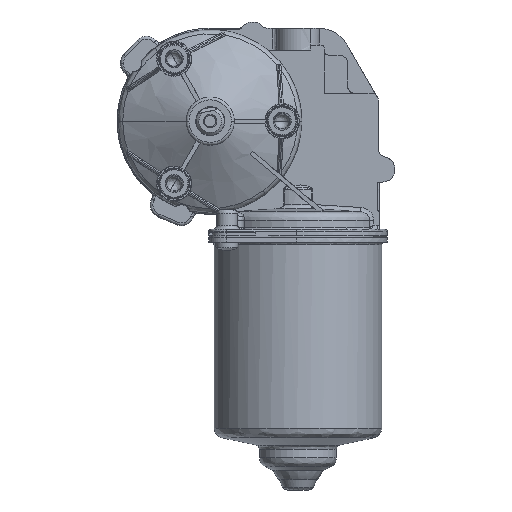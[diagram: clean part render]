
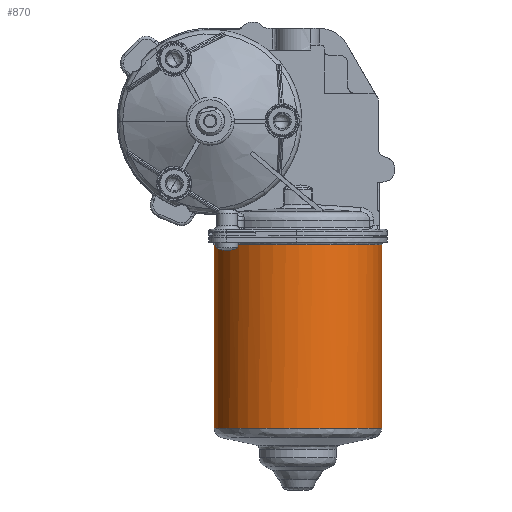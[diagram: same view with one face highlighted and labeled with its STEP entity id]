
A CAD part, left-side view. The second image highlights one B-rep face of the part: STEP entity #870.
In plain terms, the highlighted free-form (B-spline) face has degree [1, 8] with [2, 9] control points.
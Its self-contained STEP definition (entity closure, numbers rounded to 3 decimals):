
#870 = ADVANCED_FACE ( 'NONE', ( #16326 ), #9073, .F. ) ;
#4850 = EDGE_CURVE ( 'NONE', #8667, #8681, #14769, .T. ) ;
#4960 = EDGE_CURVE ( 'NONE', #8670, #8681, #14304, .T. ) ;
#4961 = EDGE_CURVE ( 'NONE', #8670, #8614, #14302, .T. ) ;
#4962 = EDGE_CURVE ( 'NONE', #8667, #8614, #14299, .T. ) ;
#7302 = CARTESIAN_POINT ( 'NONE',  ( 24.999, -60.599, -43.7 ) ) ;
#7303 = CARTESIAN_POINT ( 'NONE',  ( 24.999, -60.599, -108.318 ) ) ;
#7306 = CARTESIAN_POINT ( 'NONE',  ( 24.999, -60.599, -43.7 ) ) ;
#7308 = CARTESIAN_POINT ( 'NONE',  ( 13.376, -60.6, -43.7 ) ) ;
#7309 = CARTESIAN_POINT ( 'NONE',  ( 1.752, -55.381, -43.7 ) ) ;
#7310 = CARTESIAN_POINT ( 'NONE',  ( -7.139, -44.956, -43.7 ) ) ;
#7314 = CARTESIAN_POINT ( 'NONE',  ( -10.574, -31., -43.7 ) ) ;
#7315 = CARTESIAN_POINT ( 'NONE',  ( -7.139, -17.044, -43.7 ) ) ;
#7316 = CARTESIAN_POINT ( 'NONE',  ( 1.752, -6.619, -43.7 ) ) ;
#7317 = CARTESIAN_POINT ( 'NONE',  ( 13.376, -1.4, -43.7 ) ) ;
#7318 = CARTESIAN_POINT ( 'NONE',  ( 24.999, -1.401, -108.318 ) ) ;
#7319 = CARTESIAN_POINT ( 'NONE',  ( 24.999, -1.401, -43.7 ) ) ;
#7368 = CARTESIAN_POINT ( 'NONE',  ( 24.999, -1.401, -43.7 ) ) ;
#8614 = VERTEX_POINT ( 'NONE', #36361 ) ;
#8667 = VERTEX_POINT ( 'NONE', #36299 ) ;
#8670 = VERTEX_POINT ( 'NONE', #36296 ) ;
#8681 = VERTEX_POINT ( 'NONE', #36285 ) ;
#9073 = B_SPLINE_SURFACE_WITH_KNOTS ( 'NONE', 1, 8, ( 
 ( #39516, #39517, #39518, #39515, #39514, #39513, #39512, #39511, #39510 ),
 ( #39509, #39508, #39507, #39506, #39505, #39504, #39503, #39502, #39501 ) ),
 .UNSPECIFIED., .F., .F., .F.,
 ( 2, 2 ),
 ( 9, 9 ),
 ( 0., 1. ),
 ( 0., 1. ),
 .UNSPECIFIED. ) ;
#14299 = B_SPLINE_CURVE_WITH_KNOTS ( 'NONE', 1,
 ( #7303, #7302 ),
 .UNSPECIFIED., .F., .F.,
 ( 2, 2 ),
 ( 0., 1. ),
 .UNSPECIFIED. ) ;
#14302 = B_SPLINE_CURVE_WITH_KNOTS ( 'NONE', 8,
 ( #7368, #7317, #7316, #7315, #7314, #7310, #7309, #7308, #7306 ),
 .UNSPECIFIED., .F., .F.,
 ( 9, 9 ),
 ( 0., 1. ),
 .UNSPECIFIED. ) ;
#14304 = B_SPLINE_CURVE_WITH_KNOTS ( 'NONE', 1,
 ( #7319, #7318 ),
 .UNSPECIFIED., .F., .F.,
 ( 2, 2 ),
 ( 0., 1. ),
 .UNSPECIFIED. ) ;
#14769 = B_SPLINE_CURVE_WITH_KNOTS ( 'NONE', 8,
 ( #20167, #20150, #20148, #20146, #20144, #20142, #20140, #20138, #20136 ),
 .UNSPECIFIED., .F., .F.,
 ( 9, 9 ),
 ( 0., 1. ),
 .UNSPECIFIED. ) ;
#16326 = FACE_OUTER_BOUND ( 'NONE', #25944, .T. ) ;
#20136 = CARTESIAN_POINT ( 'NONE',  ( 24.999, -1.401, -108.318 ) ) ;
#20138 = CARTESIAN_POINT ( 'NONE',  ( 13.376, -1.4, -108.318 ) ) ;
#20140 = CARTESIAN_POINT ( 'NONE',  ( 1.752, -6.619, -108.318 ) ) ;
#20142 = CARTESIAN_POINT ( 'NONE',  ( -7.139, -17.044, -108.318 ) ) ;
#20144 = CARTESIAN_POINT ( 'NONE',  ( -10.574, -31., -108.318 ) ) ;
#20146 = CARTESIAN_POINT ( 'NONE',  ( -7.139, -44.956, -108.318 ) ) ;
#20148 = CARTESIAN_POINT ( 'NONE',  ( 1.752, -55.381, -108.318 ) ) ;
#20150 = CARTESIAN_POINT ( 'NONE',  ( 13.376, -60.6, -108.318 ) ) ;
#20167 = CARTESIAN_POINT ( 'NONE',  ( 24.999, -60.599, -108.318 ) ) ;
#25944 = EDGE_LOOP ( 'NONE', ( #26469, #26468, #26466, #26464 ) ) ;
#26464 = ORIENTED_EDGE ( 'NONE', *, *, #4962, .T. ) ;
#26466 = ORIENTED_EDGE ( 'NONE', *, *, #4850, .F. ) ;
#26468 = ORIENTED_EDGE ( 'NONE', *, *, #4960, .T. ) ;
#26469 = ORIENTED_EDGE ( 'NONE', *, *, #4961, .F. ) ;
#36285 = CARTESIAN_POINT ( 'NONE',  ( 24.999, -1.401, -108.318 ) ) ;
#36296 = CARTESIAN_POINT ( 'NONE',  ( 24.999, -1.401, -43.7 ) ) ;
#36299 = CARTESIAN_POINT ( 'NONE',  ( 24.999, -60.599, -108.318 ) ) ;
#36361 = CARTESIAN_POINT ( 'NONE',  ( 24.999, -60.599, -43.7 ) ) ;
#39501 = CARTESIAN_POINT ( 'NONE',  ( 24.999, -60.599, -43.7 ) ) ;
#39502 = CARTESIAN_POINT ( 'NONE',  ( 13.376, -60.6, -43.7 ) ) ;
#39503 = CARTESIAN_POINT ( 'NONE',  ( 1.752, -55.381, -43.7 ) ) ;
#39504 = CARTESIAN_POINT ( 'NONE',  ( -7.139, -44.956, -43.7 ) ) ;
#39505 = CARTESIAN_POINT ( 'NONE',  ( -10.574, -31., -43.7 ) ) ;
#39506 = CARTESIAN_POINT ( 'NONE',  ( -7.139, -17.044, -43.7 ) ) ;
#39507 = CARTESIAN_POINT ( 'NONE',  ( 1.752, -6.619, -43.7 ) ) ;
#39508 = CARTESIAN_POINT ( 'NONE',  ( 13.376, -1.4, -43.7 ) ) ;
#39509 = CARTESIAN_POINT ( 'NONE',  ( 24.999, -1.401, -43.7 ) ) ;
#39510 = CARTESIAN_POINT ( 'NONE',  ( 24.999, -60.599, -108.318 ) ) ;
#39511 = CARTESIAN_POINT ( 'NONE',  ( 13.376, -60.6, -108.318 ) ) ;
#39512 = CARTESIAN_POINT ( 'NONE',  ( 1.752, -55.381, -108.318 ) ) ;
#39513 = CARTESIAN_POINT ( 'NONE',  ( -7.139, -44.956, -108.318 ) ) ;
#39514 = CARTESIAN_POINT ( 'NONE',  ( -10.574, -31., -108.318 ) ) ;
#39515 = CARTESIAN_POINT ( 'NONE',  ( -7.139, -17.044, -108.318 ) ) ;
#39516 = CARTESIAN_POINT ( 'NONE',  ( 24.999, -1.401, -108.318 ) ) ;
#39517 = CARTESIAN_POINT ( 'NONE',  ( 13.376, -1.4, -108.318 ) ) ;
#39518 = CARTESIAN_POINT ( 'NONE',  ( 1.752, -6.619, -108.318 ) ) ;
